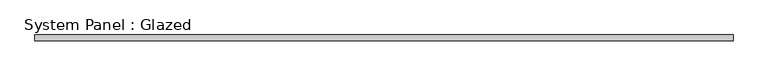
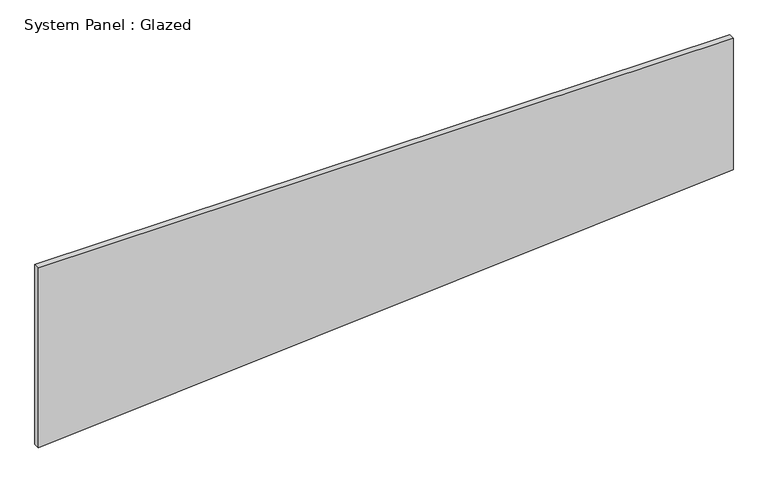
"""IFC4 building model written with IfcOpenShell, lengths in millimetres: plate geometry, System Panel : Glazed."""

from ifc_helpers import new_model, si_unit, frame, origin, place, context, project, spatial, polyline, outline, extrude, source, transform, mapped, element, save


def system_panel_glazed_6646462b(model_context):
    return source(origin(), model_context, "Body", "SweptSolid", [
        extrude(outline(polyline([(0.0, -1504.95), (221.1382894, 1504.95), (824.1294711, 1504.95), (824.1294711, -1504.95), (0.0, -1504.95)])), frame((0.0, 19.05, 0.0), z_axis=(0.0, 1.0, 0.0), x_axis=(0.0, 0.0, 1.0)), (0.0, 0.0, 1.0), 25.4),
    ])


if __name__ == "__main__":
    model = new_model("IFC4")
    model_context = context("Model", 3, world=origin())
    ifc_project = project(units=[si_unit("LENGTHUNIT", "METRE", prefix="MILLI")], contexts=[model_context])
    site = spatial("IfcSite", under=ifc_project)
    building = spatial("IfcBuilding", under=site)
    placement = place(None, origin())
    system_panel_glazed_shape = system_panel_glazed_6646462b(model_context)
    element("IfcPlate", 1, ObjectType="System Panel : Glazed", at=placement, inside=building, context=model_context, shape_type="MappedRepresentation", body=[
        mapped(system_panel_glazed_shape, transform((0.0, 0.0, 0.0), x_axis=(1.0, 0.0, 0.0), y_axis=(0.0, 1.0, 0.0), z_axis=(0.0, 0.0, 1.0))),
    ])
    save(model, "model.ifc")
